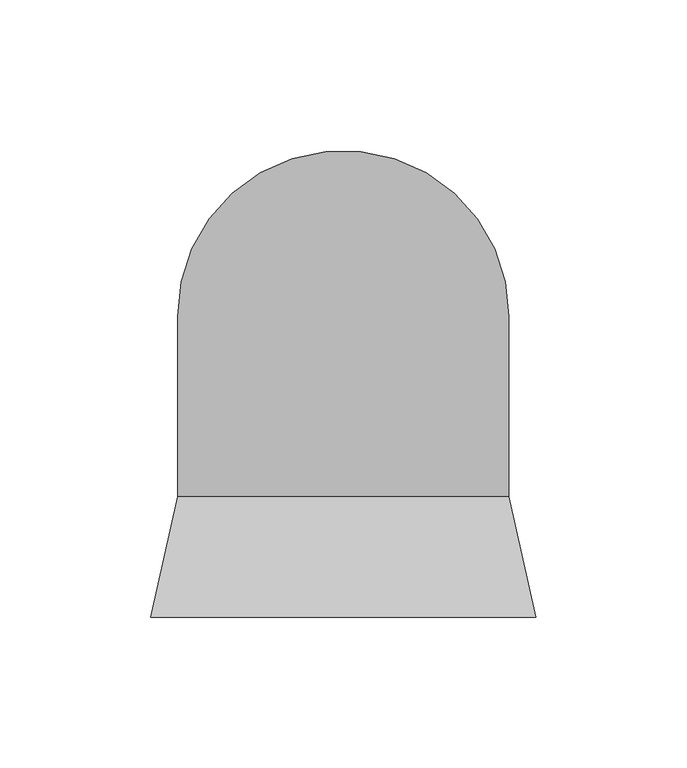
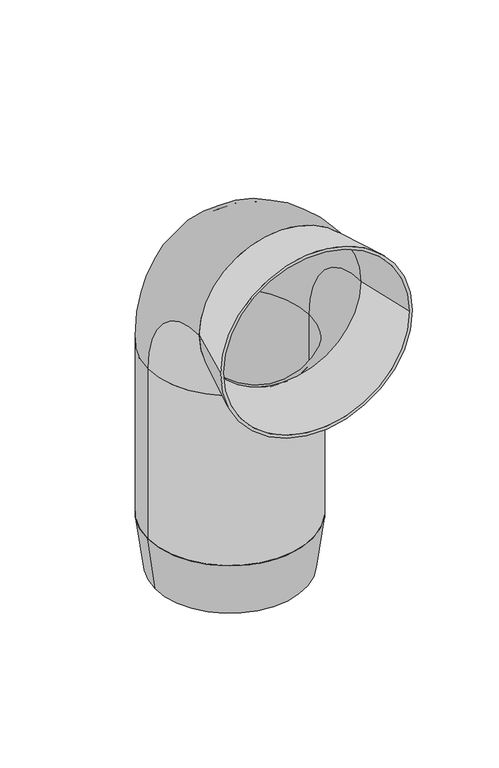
"""IFC4 building model written with IfcOpenShell, lengths in millimetres: sanitary terminal geometry, RSen_52_PIF_UN_wall closet bend 303c_wisa : wall closet bend_wisa_303C."""

from ifc_helpers import new_model, si_unit, point, frame, origin, origin_with_axes, place, context, project, spatial, polyline, circle_curve, ellipse_curve, trimmed, source, transform, mapped, element, save
from ifc_brep_helpers import plane_surface, cylinder_surface, revolved_surface, advanced_brep


def sanitary_terminal_418f9cc8(model_context):
    return source(origin(), model_context, "Body", "AdvancedBrep", [
        advanced_brep(
        [(-55.0, 0.0, 37.0), (55.0, 0.0, 37.0), (53.0, 0.0, 37.0), (-53.0, 0.0, 37.0), (-50.0, 0.0, 0.0), (50.0, 0.0, 0.0), (-48.0, 0.0, 0.0), (48.0, 0.0, 0.0)],
        [
            (0, 1, circle_curve(frame((0.0, 0.0, 37.0), z_axis=(0.0, 0.0, 1.0), x_axis=(-1.0, 0.0, 0.0)), 55.0)),
            (1, 0, circle_curve(frame((0.0, 0.0, 37.0), z_axis=(0.0, 0.0, 1.0), x_axis=(1.0, 0.0, 0.0)), 55.0)),
            (2, 3, circle_curve(frame((0.0, 0.0, 37.0), z_axis=(0.0, 0.0, -1.0), x_axis=(-1.0, 0.0, 0.0)), 53.0)),
            (3, 2, circle_curve(frame((0.0, 0.0, 37.0), z_axis=(0.0, 0.0, -1.0), x_axis=(1.0, 0.0, 0.0)), 53.0)),
            (4, 5, circle_curve(frame((0.0, 0.0, 0.0), z_axis=(0.0, 0.0, -1.0), x_axis=(1.0, 0.0, 0.0)), 50.0)),
            (5, 4, circle_curve(frame((0.0, 0.0, 0.0), z_axis=(0.0, 0.0, -1.0), x_axis=(-1.0, 0.0, 0.0)), 50.0)),
            (6, 7, circle_curve(frame((0.0, 0.0, 0.0), z_axis=(0.0, 0.0, 1.0), x_axis=(-1.0, 0.0, 0.0)), 48.0)),
            (7, 6, circle_curve(origin_with_axes(), 48.0)),
            (0, 4),
            (5, 1),
            (6, 3),
            (2, 7),
        ],
        [
            plane_surface(frame((0.0, 0.0, 37.0), z_axis=(0.0, 0.0, 1.0), x_axis=(0.0, -1.0, 0.0))),
            plane_surface(frame((0.0, 0.0, 0.0), z_axis=(0.0, 0.0, -1.0), x_axis=(0.0, -1.0, 0.0))),
            revolved_surface(polyline([(50.0, 0.0, 0.0), (55.0, 0.0, 37.0)]), (0.0, 0.0, -370.0), (0.0, 0.0, 1.0)),
            revolved_surface(polyline([(-50.0, 0.0, 0.0), (-55.0, 0.0, 37.0)]), (0.0, 0.0, -370.0), (0.0, 0.0, 1.0)),
            revolved_surface(polyline([(-53.0, 0.0, 37.0), (-48.0, 0.0, 0.0)]), (0.0, 0.0, -355.2), (0.0, 0.0, 1.0)),
        ],
        [
            (0, [[1, 2], [3, 4]]),
            (1, [[5, 6], [7, 8]]),
            (2, [[-1, 9, -6, 10]]),
            (3, [[-2, -10, -5, -9]]),
            (4, [[11, -3, 12, -7]]),
            (4, [[-11, -8, -12, -4]]),
        ],
    ),
        advanced_brep(
        [(-64.0, -100.0, 217.0), (64.0, -100.0, 217.0), (62.0, -100.0, 217.0), (-62.0, -100.0, 217.0), (-55.0, -60.0, 217.0), (55.0, -60.0, 217.0), (-53.0, -60.0, 217.0), (53.0, -60.0, 217.0)],
        [
            (0, 1, circle_curve(frame((0.0, -100.0, 217.0), z_axis=(0.0, -1.0, 0.0), x_axis=(-1.0, 0.0, 0.0)), 64.0)),
            (1, 0, circle_curve(frame((0.0, -100.0, 217.0), z_axis=(0.0, -1.0, 0.0), x_axis=(1.0, 0.0, 0.0)), 64.0)),
            (2, 3, circle_curve(frame((0.0, -100.0, 217.0), z_axis=(0.0, 1.0, 0.0), x_axis=(-1.0, 0.0, 0.0)), 62.0)),
            (3, 2, circle_curve(frame((0.0, -100.0, 217.0), z_axis=(0.0, 1.0, 0.0), x_axis=(1.0, 0.0, 0.0)), 62.0)),
            (4, 5, circle_curve(frame((0.0, -60.0, 217.0), z_axis=(0.0, 1.0, 0.0), x_axis=(1.0, 0.0, 0.0)), 55.0)),
            (5, 4, circle_curve(frame((0.0, -60.0, 217.0), z_axis=(0.0, 1.0, 0.0), x_axis=(-1.0, 0.0, 0.0)), 55.0)),
            (6, 7, circle_curve(frame((0.0, -60.0, 217.0), z_axis=(0.0, -1.0, 0.0), x_axis=(-1.0, 0.0, 0.0)), 53.0)),
            (7, 6, circle_curve(frame((0.0, -60.0, 217.0), z_axis=(0.0, -1.0, 0.0), x_axis=(1.0, 0.0, 0.0)), 53.0)),
            (0, 4),
            (5, 1),
            (6, 3),
            (2, 7),
        ],
        [
            plane_surface(frame((0.0, -100.0, 217.0), z_axis=(0.0, -1.0, 0.0), x_axis=(0.0, 0.0, -1.0))),
            plane_surface(frame((0.0, -60.0, 217.0), z_axis=(0.0, 1.0, 0.0), x_axis=(0.0, 0.0, -1.0))),
            revolved_surface(polyline([(54.99999999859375, -60.0, 217.0), (64.0, -100.0, 217.0)]), (0.0, 184.4444444, 217.0), (0.0, -1.0, 0.0)),
            revolved_surface(polyline([(-54.99999999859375, -60.0, 217.0), (-64.0, -100.0, 217.0)]), (0.0, 184.4444444, 217.0), (0.0, -1.0, 0.0)),
            revolved_surface(polyline([(-62.0, -100.0, 217.0), (-53.00000000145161, -60.0, 217.0)]), (0.0, 175.5555556, 217.0), (0.0, -1.0, 0.0)),
        ],
        [
            (0, [[1, 2], [3, 4]]),
            (1, [[5, 6], [7, 8]]),
            (2, [[-1, 9, -6, 10]]),
            (3, [[-2, -10, -5, -9]]),
            (4, [[11, -3, 12, -7]]),
            (4, [[-11, -8, -12, -4]]),
        ],
    ),
        advanced_brep(
        [(-55.0, 0.0, 37.0), (55.0, 0.0, 37.0), (-53.0, 0.0, 37.0), (53.0, 0.0, 37.0), (-55.0, 0.0, 157.0), (55.0, 0.0, 157.0), (-55.0, -60.0, 217.0), (55.0, -60.0, 217.0), (-53.0, -60.0, 217.0), (53.0, -60.0, 217.0), (-53.0, 0.0, 157.0), (53.0, 0.0, 157.0)],
        [
            (0, 1, circle_curve(frame((0.0, 0.0, 37.0), z_axis=(0.0, 0.0, -1.0), x_axis=(1.0, 0.0, 0.0)), 55.0)),
            (1, 0, circle_curve(frame((0.0, 0.0, 37.0), z_axis=(0.0, 0.0, -1.0), x_axis=(1.0, 0.0, 0.0)), 55.0)),
            (2, 3, circle_curve(frame((0.0, 0.0, 37.0), z_axis=(0.0, 0.0, 1.0), x_axis=(1.0, 0.0, 0.0)), 53.0)),
            (3, 2, circle_curve(frame((0.0, 0.0, 37.0), z_axis=(0.0, 0.0, 1.0), x_axis=(1.0, 0.0, 0.0)), 53.0)),
            (0, 4),
            (4, 5, circle_curve(frame((0.0, 0.0, 157.0), z_axis=(0.0, 0.0, -1.0), x_axis=(1.0, 0.0, 0.0)), 55.0)),
            (5, 1),
            (5, 4, circle_curve(frame((0.0, 0.0, 157.0), z_axis=(0.0, 0.0, -1.0), x_axis=(1.0, 0.0, 0.0)), 55.0)),
            (6, 7, circle_curve(frame((0.0, -60.0, 217.0), z_axis=(0.0, -1.0, 0.0), x_axis=(1.0, 0.0, 0.0)), 55.0)),
            (7, 6, circle_curve(frame((0.0, -60.0, 217.0), z_axis=(0.0, -1.0, 0.0), x_axis=(1.0, 0.0, 0.0)), 55.0)),
            (8, 9, circle_curve(frame((0.0, -60.0, 217.0), z_axis=(0.0, 1.0, 0.0), x_axis=(1.0, 0.0, 0.0)), 53.0)),
            (9, 8, circle_curve(frame((0.0, -60.0, 217.0), z_axis=(0.0, 1.0, 0.0), x_axis=(1.0, 0.0, 0.0)), 53.0)),
            (7, 5, circle_curve(frame((55.0, -60.0, 157.0), z_axis=(-1.0, 0.0, 0.0), x_axis=(0.0, 1.0, 0.0)), 60.0)),
            (4, 6, circle_curve(frame((-55.0, -60.0, 157.0), z_axis=(1.0, 0.0, 0.0), x_axis=(0.0, 1.0, 0.0)), 60.0)),
            (2, 10),
            (10, 11, circle_curve(frame((0.0, 0.0, 157.0), z_axis=(0.0, 0.0, 1.0), x_axis=(1.0, 0.0, 0.0)), 53.0)),
            (11, 3),
            (11, 10, circle_curve(frame((0.0, 0.0, 157.0), z_axis=(0.0, 0.0, 1.0), x_axis=(1.0, 0.0, 0.0)), 53.0)),
            (9, 11, circle_curve(frame((53.0, -60.0, 157.0), z_axis=(-1.0, 0.0, 0.0), x_axis=(0.0, 1.0, 0.0)), 60.0)),
            (10, 8, circle_curve(frame((-53.0, -60.0, 157.0), z_axis=(1.0, 0.0, 0.0), x_axis=(0.0, 1.0, 0.0)), 60.0)),
        ],
        [
            plane_surface(frame((0.0, 0.0, 37.0), z_axis=(0.0, 0.0, -1.0), x_axis=(1.0, 0.0, 0.0))),
            cylinder_surface(frame((0.0, 0.0, 37.0), z_axis=(0.0, 0.0, -1.0), x_axis=(1.0, 0.0, 0.0)), 55.0),
            plane_surface(frame((0.0, -60.0, 217.0), z_axis=(0.0, -1.0, 0.0), x_axis=(1.0, 0.0, 0.0))),
            revolved_surface(trimmed(ellipse_curve(frame((0.0, 0.0, 157.0), z_axis=(0.0, 0.0, -1.0), x_axis=(1.0, 0.0, 0.0)), 55.0, 55.0), [point((-55.0, 0.0, 157.0))], [point((55.0, 0.0, 157.0))], True, "CARTESIAN"), (0.0, -60.0, 157.0), (1.0, 0.0, 0.0)),
            revolved_surface(trimmed(ellipse_curve(frame((0.0, 0.0, 157.0), z_axis=(0.0, 0.0, -1.0), x_axis=(1.0, 0.0, 0.0)), 55.0, 55.0), [point((55.0, 0.0, 157.0))], [point((-55.0, 0.0, 157.0))], True, "CARTESIAN"), (0.0, -60.0, 157.0), (1.0, 0.0, 0.0)),
            revolved_surface(polyline([(53.0, 0.0, 157.0), (53.0, 0.0, 37.0)]), (0.0, 0.0, 37.0), (0.0, 0.0, 1.0)),
            revolved_surface(trimmed(ellipse_curve(frame((0.0, 0.0, 157.0), z_axis=(0.0, 0.0, 1.0), x_axis=(1.0, 0.0, 0.0)), 53.0, 53.0), [point((-53.0, 0.0, 157.0))], [point((53.0, 0.0, 157.0))], True, "CARTESIAN"), (0.0, -60.0, 157.0), (1.0, 0.0, 0.0)),
            revolved_surface(trimmed(ellipse_curve(frame((0.0, 0.0, 157.0), z_axis=(0.0, 0.0, 1.0), x_axis=(1.0, 0.0, 0.0)), 53.0, 53.0), [point((53.0, 0.0, 157.0))], [point((-53.0, 0.0, 157.0))], True, "CARTESIAN"), (0.0, -60.0, 157.0), (1.0, 0.0, 0.0)),
        ],
        [
            (0, [[1, 2], [3, 4]]),
            (1, [[-1, 5, 6, 7]]),
            (1, [[-2, -7, 8, -5]]),
            (2, [[9, 10], [11, 12]]),
            (3, [[13, -6, 14, -10]]),
            (4, [[-14, -8, -13, -9]]),
            (5, [[-3, 15, 16, 17]]),
            (5, [[-4, -17, 18, -15]]),
            (6, [[19, -16, 20, -12]]),
            (7, [[-20, -18, -19, -11]]),
        ],
    ),
    ])


if __name__ == "__main__":
    model = new_model("IFC4")
    model_context = context("Model", 3, world=origin())
    ifc_project = project(units=[si_unit("LENGTHUNIT", "METRE", prefix="MILLI")], contexts=[model_context])
    site = spatial("IfcSite", under=ifc_project)
    building = spatial("IfcBuilding", under=site)
    placement = place(None, origin())
    sanitary_terminal_shape = sanitary_terminal_418f9cc8(model_context)
    element("IfcSanitaryTerminal", 1, ObjectType="RSen_52_PIF_UN_wall closet bend 303c_wisa : wall closet bend_wisa_303C", at=placement, inside=building, context=model_context, shape_type="MappedRepresentation", body=[
        mapped(sanitary_terminal_shape, transform((0.0, 0.0, 0.0), x_axis=(1.0, 0.0, 0.0), y_axis=(0.0, 1.0, 0.0), z_axis=(0.0, 0.0, 1.0))),
    ])
    save(model, "model.ifc")
